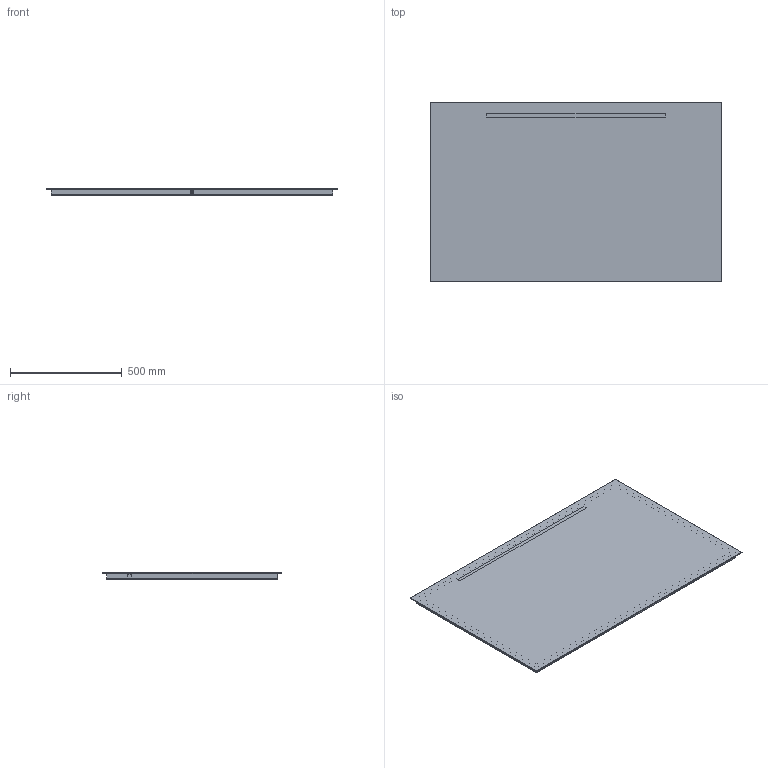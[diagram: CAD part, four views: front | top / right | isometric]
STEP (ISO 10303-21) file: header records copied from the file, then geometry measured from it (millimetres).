
FILE_DESCRIPTION (( 'STEP AP203' ), '1' );
FILE_NAME ('SPIEGEL MODEL 13 130CM.STEP', '2016-07-14T09:47:02', ( '' ), ( '' ), 'SwSTEP 2.0', 'SolidWorks 2016', '' );
FILE_SCHEMA (( 'CONFIG_CONTROL_DESIGN' ));
Length unit declared in the file: millimetre
Products named in the file (1): SPIEGEL MODEL 13 130CM
Bounding box: 1300 x 800 x 30 mm (x, y, z)
Volume: 5693774.6 mm3; surface area: 2317055.8 mm2
Topology: 2 solids, 2 shells, 69 faces, 148 edges, 90 vertices
Faces by surface type: plane 59, cylinder 8, torus 2
Entity records: 1893 total; most frequent: DIRECTION 308, CARTESIAN_POINT 308, ORIENTED_EDGE 296, EDGE_CURVE 148, LINE 128, VECTOR 128, AXIS2_PLACEMENT_3D 90, VERTEX_POINT 90
